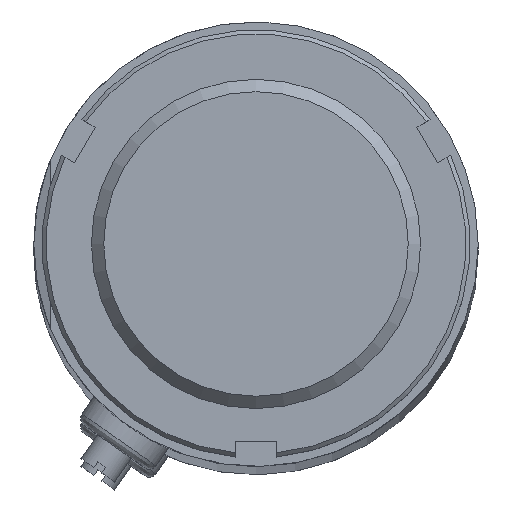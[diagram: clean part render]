
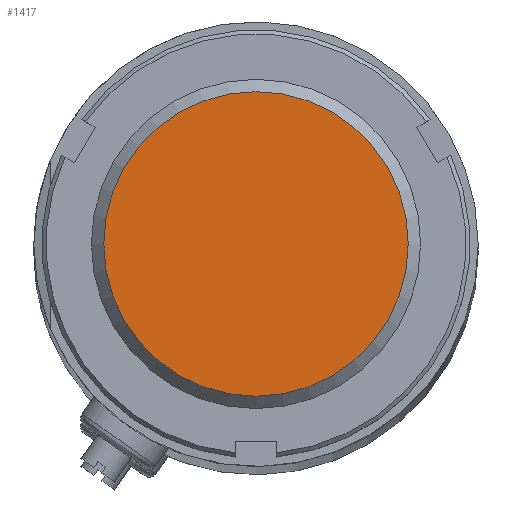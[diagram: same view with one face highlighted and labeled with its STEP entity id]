
A CAD part, top view. The second image highlights one B-rep face of the part: STEP entity #1417.
In plain terms, the highlighted planar face has unit normal (0, 0, 1) as drawn and (-1, 0, 0) by its records, which use the part's own axes.
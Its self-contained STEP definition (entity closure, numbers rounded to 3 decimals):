
#282=PLANE('',#1593);
#424=FACE_OUTER_BOUND('',#569,.T.);
#569=EDGE_LOOP('',(#1204));
#652=CIRCLE('',#1592,18.5);
#759=VERTEX_POINT('',#2465);
#914=EDGE_CURVE('',#759,#759,#652,.T.);
#1204=ORIENTED_EDGE('',*,*,#914,.T.);
#1417=ADVANCED_FACE('',(#424),#282,.T.);
#1592=AXIS2_PLACEMENT_3D('',#2466,#1956,#1957);
#1593=AXIS2_PLACEMENT_3D('',#2467,#1958,#1959);
#1956=DIRECTION('center_axis',(-1.,0.,0.));
#1957=DIRECTION('ref_axis',(0.,0.,1.));
#1958=DIRECTION('center_axis',(-1.,0.,0.));
#1959=DIRECTION('ref_axis',(0.,0.,1.));
#2465=CARTESIAN_POINT('',(-38.,0.,18.5));
#2466=CARTESIAN_POINT('Origin',(-38.,0.,0.));
#2467=CARTESIAN_POINT('Origin',(-38.,0.,0.));
